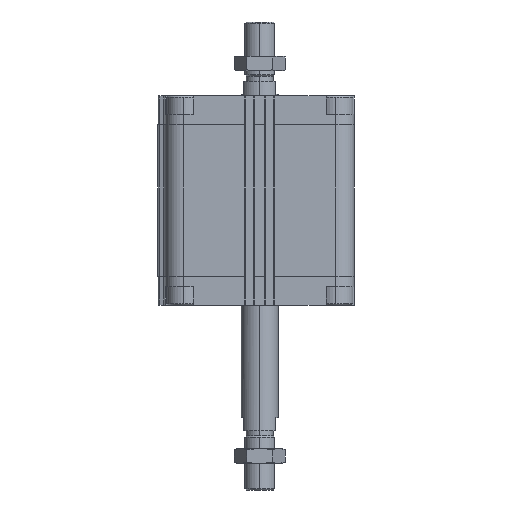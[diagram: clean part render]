
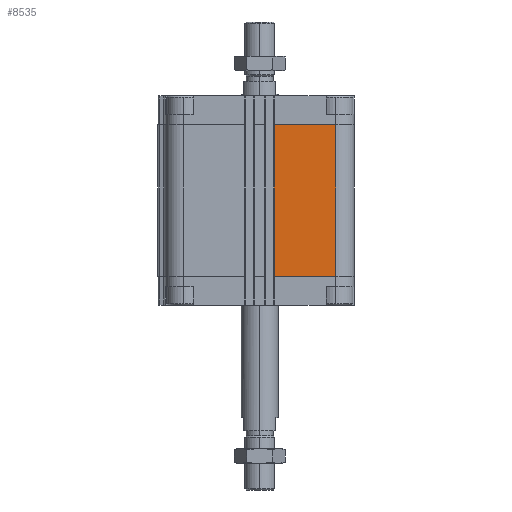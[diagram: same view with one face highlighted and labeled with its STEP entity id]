
A CAD part, left-side view. The second image highlights one B-rep face of the part: STEP entity #8535.
In plain terms, the highlighted planar face has unit normal (-1, 0, 0).
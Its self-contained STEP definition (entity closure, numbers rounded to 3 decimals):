
#14 = PLANE ( 'NONE',  #14190 ) ;
#531 = CARTESIAN_POINT ( 'NONE',  ( -64., -51.5, -122. ) ) ;
#1084 = DIRECTION ( 'NONE',  ( 0., 0., 1. ) ) ;
#1346 = ORIENTED_EDGE ( 'NONE', *, *, #4411, .F. ) ;
#1567 = CARTESIAN_POINT ( 'NONE',  ( -64., -9.95, -19.5 ) ) ;
#1639 = CARTESIAN_POINT ( 'NONE',  ( -64., -9.95, -122. ) ) ;
#2440 = CARTESIAN_POINT ( 'NONE',  ( -64., -51.5, -19.5 ) ) ;
#2490 = DIRECTION ( 'NONE',  ( 0., -1., 0. ) ) ;
#3101 = ORIENTED_EDGE ( 'NONE', *, *, #3857, .T. ) ;
#3857 = EDGE_CURVE ( 'NONE', #11058, #7279, #8842, .T. ) ;
#4284 = VECTOR ( 'NONE', #2490, 1000. ) ;
#4411 = EDGE_CURVE ( 'NONE', #22849, #13062, #17050, .T. ) ;
#4556 = VECTOR ( 'NONE', #1084, 1000. ) ;
#7029 = LINE ( 'NONE', #19274, #15067 ) ;
#7097 = DIRECTION ( 'NONE',  ( -1., 0., 0. ) ) ;
#7279 = VERTEX_POINT ( 'NONE', #2440 ) ;
#8535 = ADVANCED_FACE ( 'NONE', ( #19114 ), #14, .T. ) ;
#8842 = LINE ( 'NONE', #531, #14604 ) ;
#8862 = ORIENTED_EDGE ( 'NONE', *, *, #14113, .T. ) ;
#10164 = CARTESIAN_POINT ( 'NONE',  ( -64., -9.95, -122. ) ) ;
#11058 = VERTEX_POINT ( 'NONE', #18734 ) ;
#11934 = LINE ( 'NONE', #18921, #4284 ) ;
#13062 = VERTEX_POINT ( 'NONE', #1567 ) ;
#13801 = ORIENTED_EDGE ( 'NONE', *, *, #14214, .F. ) ;
#14113 = EDGE_CURVE ( 'NONE', #22849, #11058, #11934, .T. ) ;
#14190 = AXIS2_PLACEMENT_3D ( 'NONE', #1639, #7097, #22734 ) ;
#14214 = EDGE_CURVE ( 'NONE', #13062, #7279, #7029, .T. ) ;
#14604 = VECTOR ( 'NONE', #16072, 1000. ) ;
#15067 = VECTOR ( 'NONE', #19497, 1000. ) ;
#15841 = EDGE_LOOP ( 'NONE', ( #13801, #1346, #8862, #3101 ) ) ;
#16072 = DIRECTION ( 'NONE',  ( 0., 0., 1. ) ) ;
#16620 = CARTESIAN_POINT ( 'NONE',  ( -64., -9.95, -122. ) ) ;
#17050 = LINE ( 'NONE', #10164, #4556 ) ;
#18734 = CARTESIAN_POINT ( 'NONE',  ( -64., -51.5, -122. ) ) ;
#18921 = CARTESIAN_POINT ( 'NONE',  ( -64., -9.95, -122. ) ) ;
#19114 = FACE_OUTER_BOUND ( 'NONE', #15841, .T. ) ;
#19274 = CARTESIAN_POINT ( 'NONE',  ( -64., -9.95, -19.5 ) ) ;
#19497 = DIRECTION ( 'NONE',  ( 0., -1., 0. ) ) ;
#22734 = DIRECTION ( 'NONE',  ( 0., -1., 0. ) ) ;
#22849 = VERTEX_POINT ( 'NONE', #16620 ) ;
